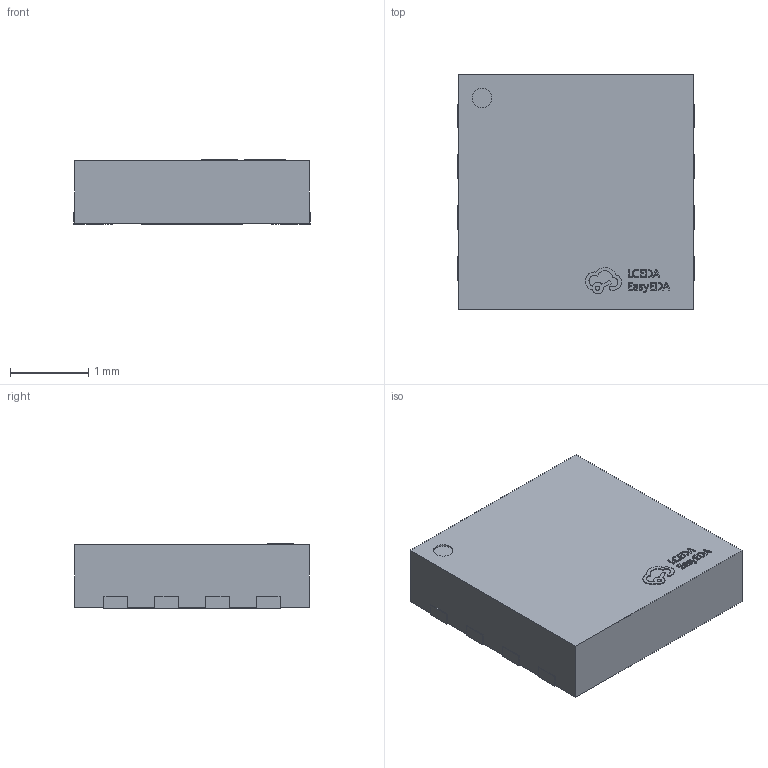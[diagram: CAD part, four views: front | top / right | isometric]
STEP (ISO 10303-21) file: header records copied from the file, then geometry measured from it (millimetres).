
FILE_DESCRIPTION (( 'STEP AP214' ), '1' );
FILE_NAME ('TDFN-8_L3.0-W3.0-H0.8-P0.65.step', '2022-06-30T13:55:25', ( '' ), ( '' ), 'SwSTEP 2.0', 'SolidWorks 2020', '' );
FILE_SCHEMA (( 'AUTOMOTIVE_DESIGN' ));
Length unit declared in the file: millimetre
Products named in the file (1): TDFN-8_L3.0-W3.0-H0.8-P0.65
Bounding box: 3.02 x 3 x 0.82 mm (x, y, z)
Volume: 7.2 mm3; surface area: 28 mm2
Topology: 1 solids, 1 shells, 350 faces, 960 edges, 640 vertices
Faces by surface type: plane 224, bspline 112, cylinder 14
Entity records: 15428 total; most frequent: CARTESIAN_POINT 4055, ORIENTED_EDGE 1920, DIRECTION 1238, EDGE_CURVE 960, VECTOR 704, LINE 704, VERTEX_POINT 640, EDGE_LOOP 378
